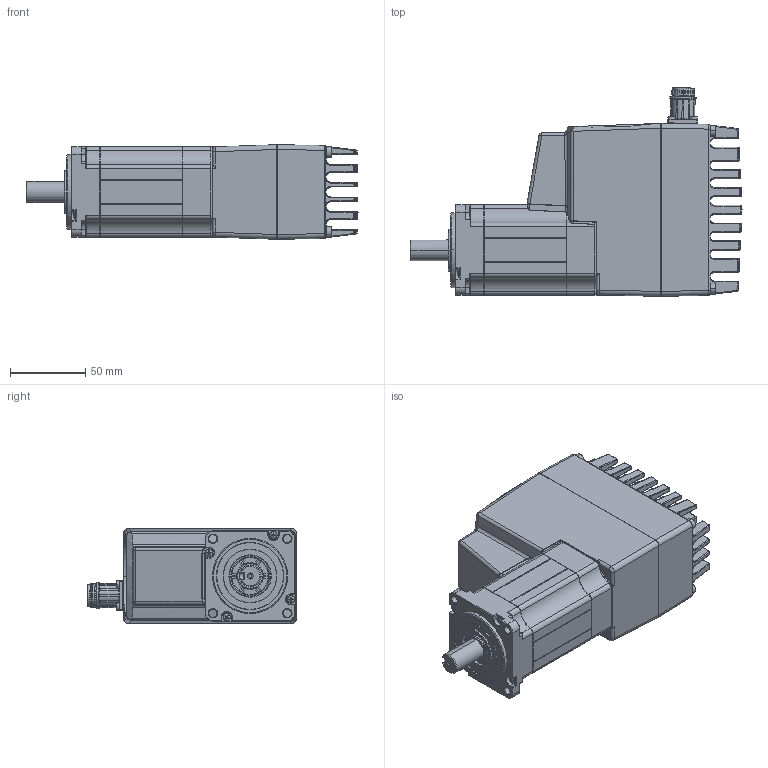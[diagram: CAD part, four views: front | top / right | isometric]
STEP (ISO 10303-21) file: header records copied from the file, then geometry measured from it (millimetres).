
FILE_DESCRIPTION((''),'2;1');
FILE_NAME('STEPPERASSY_ASM','2023-01-28T13:13:32',('Administrator'),(''),'CREO PARAMETRIC BY PTC INC, 2022014','CREO PARAMETRIC BY PTC INC, 2022014','');
FILE_SCHEMA(('AUTOMOTIVE_DESIGN { 1 0 10303 214 1 1 1 1 }'));
Products named in the file (8): NEW_REAR_PART; 400_F; SHAFT_KEY; NEW_CONNECTORS; FINS_BOLT_NEW; 400_BEARING; MAC400_ASM; STEPPERASSY_ASM
Assembly tree (10 placements, depth 3):
  STEPPERASSY_ASM
    MAC400_ASM
      NEW_REAR_PART
      400_F
      SHAFT_KEY
      NEW_CONNECTORS
      FINS_BOLT_NEW  x4
      400_BEARING
Bounding box: 221.05 x 138.87 x 63 mm (x, y, z)
Volume: 899122.1 mm3; surface area: 132466.4 mm2
Topology: 9 solids, 17 shells, 3007 faces, 7205 edges, 4124 vertices
Faces by surface type: cylinder 1136, plane 659, bspline 486, torus 292, sphere 214, cone 206, extrusion 14
Entity records: 145056 total; most frequent: CARTESIAN_POINT 55115, ORIENTED_EDGE 13718, DIRECTION 11915, PRESENTATION_STYLE_ASSIGNMENT 7308, STYLED_ITEM 6921, CURVE_STYLE 6915, EDGE_CURVE 6859, AXIS2_PLACEMENT_3D 4743
